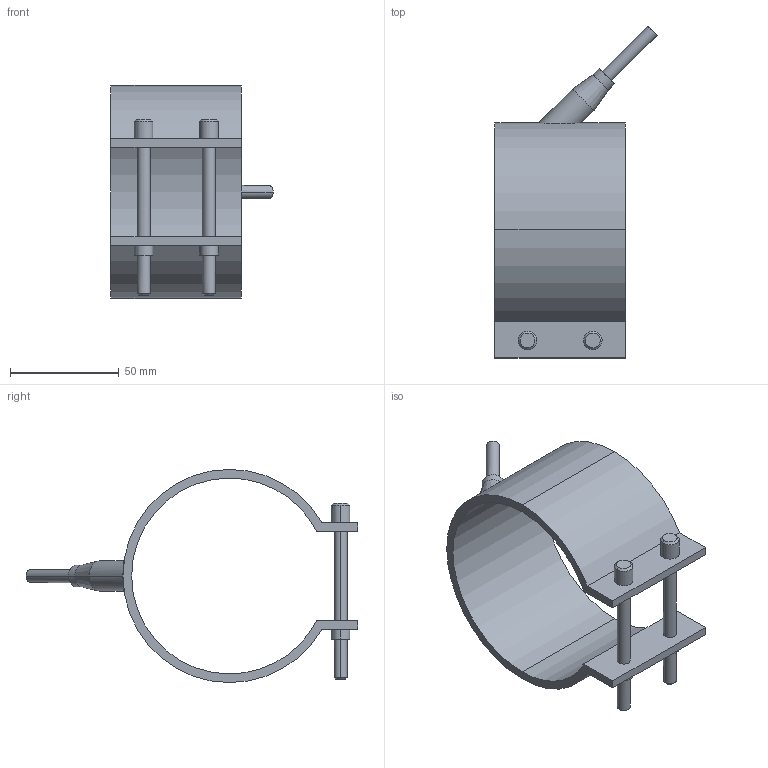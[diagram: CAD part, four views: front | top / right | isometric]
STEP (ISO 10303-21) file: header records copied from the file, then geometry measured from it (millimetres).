
FILE_DESCRIPTION(('CATIA V5 STEP Exchange'),'2;1');
FILE_NAME('C:\Users\Utente\Desktop\IO LAVORO\3D X SITO CF\X SITO\PLASTICA\RF1\29090060.stp','2021-03-29T17:57:39+00:00',('none'),('none'),'CATIA Version 5 Release 20 GA (IN-10)','CATIA V5 STEP AP203','none');
FILE_SCHEMA(('CONFIG_CONTROL_DESIGN'));
Length unit declared in the file: millimetre
Products named in the file (1): 29090060
Bounding box: 74.55 x 152.55 x 98 mm (x, y, z)
Volume: 77799.9 mm3; surface area: 41275 mm2
Topology: 1 solids, 1 shells, 54 faces, 123 edges, 79 vertices
Faces by surface type: cylinder 28, plane 16, cone 10
Entity records: 1734 total; most frequent: CARTESIAN_POINT 502, ORIENTED_EDGE 246, DIRECTION 213, EDGE_CURVE 123, AXIS2_PLACEMENT_3D 106, VERTEX_POINT 79, EDGE_LOOP 66, VECTOR 56
